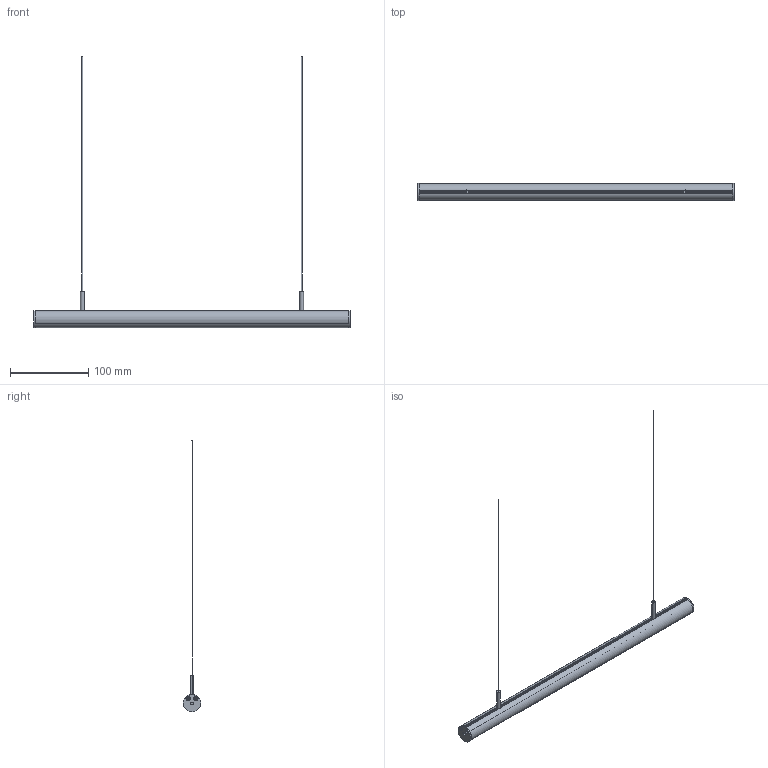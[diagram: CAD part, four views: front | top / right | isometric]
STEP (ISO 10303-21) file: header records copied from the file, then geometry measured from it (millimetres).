
FILE_DESCRIPTION (( 'STEP AP214' ), '1' );
FILE_NAME ('BellunoCompleto.STEP', '2022-02-17T13:57:41', ( '' ), ( '' ), 'SwSTEP 2.0', 'SolidWorks 2021', '' );
FILE_SCHEMA (( 'AUTOMOTIVE_DESIGN' ));
Length unit declared in the file: millimetre
Products named in the file (1): BellunoCompleto
Bounding box: 404 x 22 x 346.85 mm (x, y, z)
Volume: 58040.9 mm3; surface area: 75401.5 mm2
Topology: 8 solids, 8 shells, 123 faces, 313 edges, 206 vertices
Faces by surface type: cylinder 70, plane 45, cone 8
Entity records: 5241 total; most frequent: DIRECTION 709, CARTESIAN_POINT 643, ORIENTED_EDGE 626, EDGE_CURVE 313, AXIS2_PLACEMENT_3D 272, VERTEX_POINT 206, VECTOR 165, LINE 165
